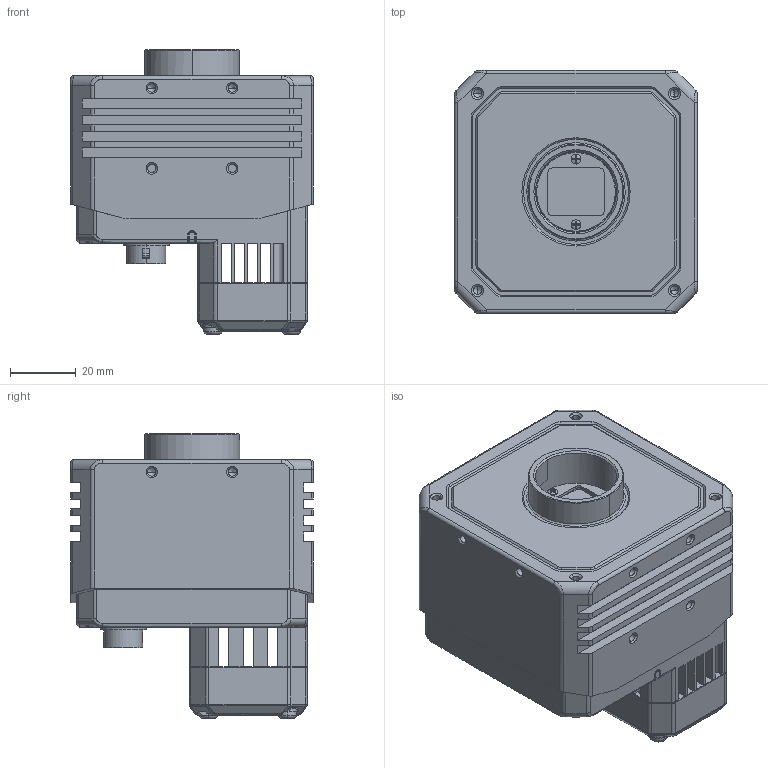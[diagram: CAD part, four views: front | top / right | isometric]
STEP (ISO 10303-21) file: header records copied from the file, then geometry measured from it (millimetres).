
FILE_DESCRIPTION((''),'2;1');
FILE_NAME('PRT0004','2021-11-23T10:26:31',('gengdawei'),(''),'CREO PARAMETRIC BY PTC INC, 2020044','CREO PARAMETRIC BY PTC INC, 2020044','');
FILE_SCHEMA(('CONFIG_CONTROL_DESIGN'));
Products named in the file (1): PRT0004
Bounding box: 74 x 74 x 86.81 mm (x, y, z)
Volume: 271128.3 mm3; surface area: 49106.7 mm2
Topology: 2 solids, 18 shells, 1911 faces, 5444 edges, 3564 vertices
Faces by surface type: plane 937, cylinder 573, cone 179, bspline 126, torus 64, extrusion 24, sphere 4, revolution 4
Entity records: 78509 total; most frequent: CARTESIAN_POINT 29130, ORIENTED_EDGE 10796, DIRECTION 9816, EDGE_CURVE 5398, VERTEX_POINT 3561, AXIS2_PLACEMENT_3D 3373, VECTOR 3066, LINE 3042
